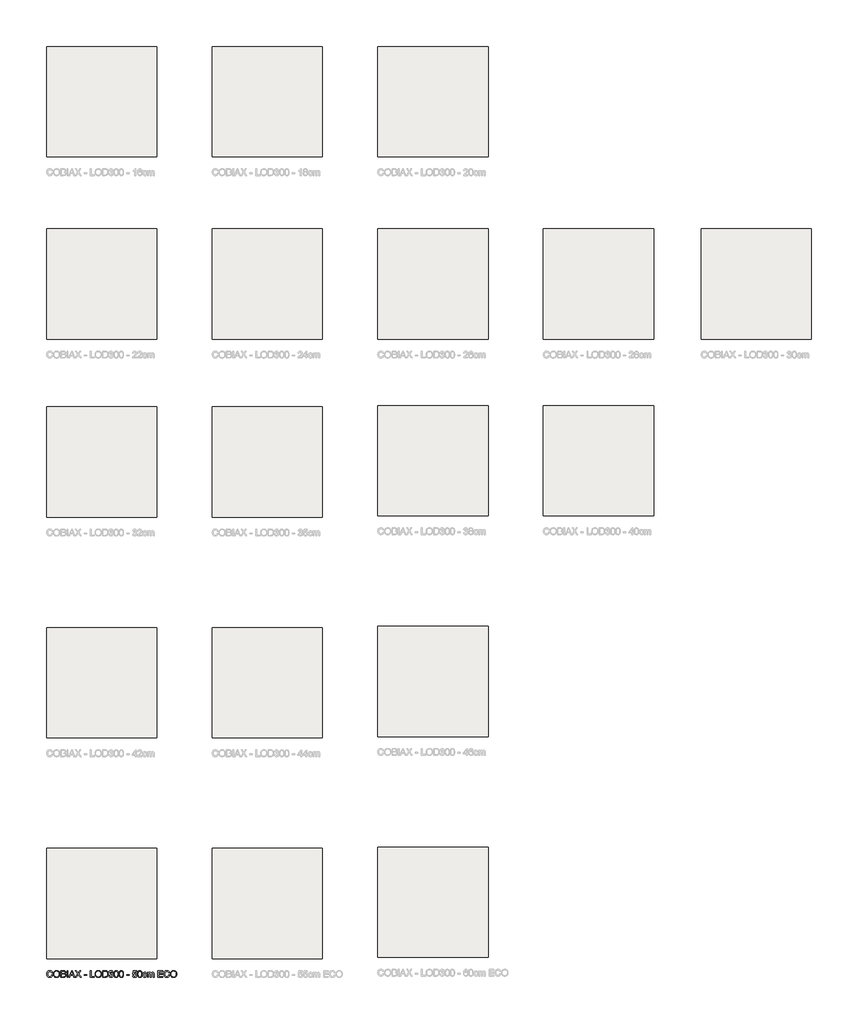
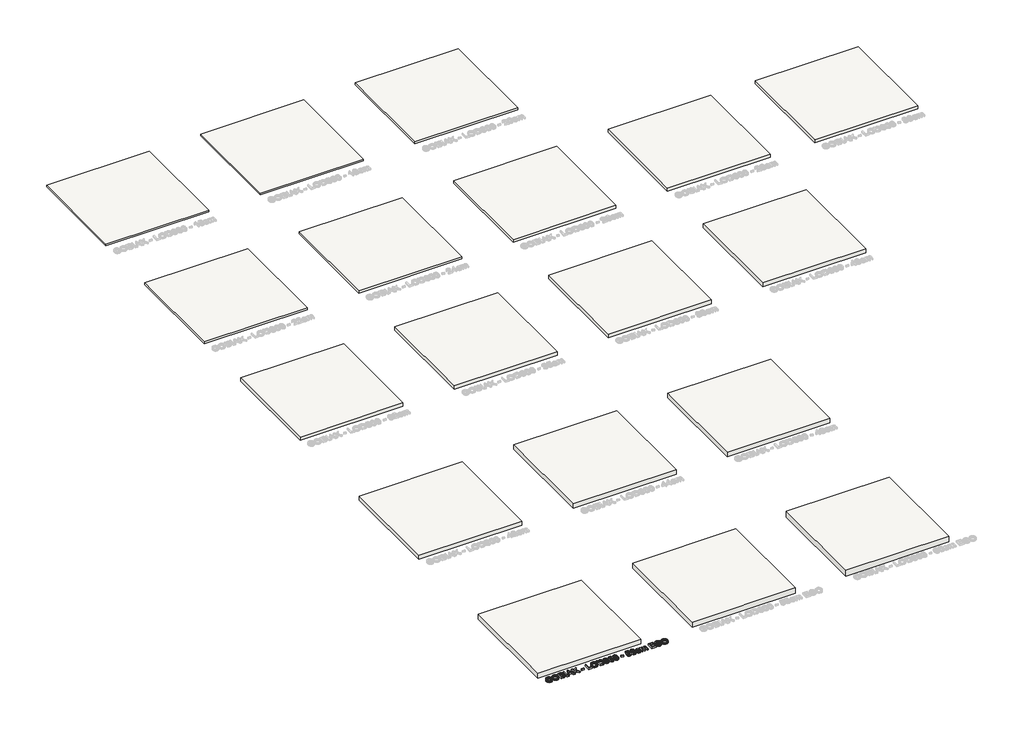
# One storey, part 1 of 18: 18 slabs, 1 proxy.
"""IFC4 building model written with IfcOpenShell, lengths in millimetres."""

from ifc_helpers import new_model, si_unit, frame, origin, origin_with_axes, place, context, project, spatial, polyline, outline, extrude, element, save

model = new_model("IFC4")

# Units and contexts
model_context = context("Model", 3, world=origin())
ifc_project = project(units=[si_unit("LENGTHUNIT", "METRE", prefix="MILLI")], contexts=[model_context])

# Site, building, storey
site = spatial("IfcSite", under=ifc_project)
building = spatial("IfcBuilding", under=site)
storey = spatial("IfcBuildingStorey", under=building, Name="COBIAX Slabs", Elevation=0.0)

# Proxy
placement = place(None, origin())
element("IfcBuildingElementProxy", 1, Name="600mm Arial", ObjectType="600mm Arial", at=placement, inside=storey, context=model_context, shape_type="SweptSolid", body=[
    extrude(outline(polyline([(-20201.7846047, -62740.3003464), (-20126.4423721, -62759.7245158), (-20141.35079, -62806.5788864), (-20161.2072206, -62847.5195539), (-20186.0116642, -62882.5465184), (-20215.7641205, -62911.6597798), (-20249.7932051, -62934.5466384), (-20287.4275332, -62950.8943946), (-20328.6671048, -62960.7030482), (-20373.5119201, -62963.9725995), (-20419.4557827, -62961.4985931), (-20460.902288, -62954.0765738), (-20497.8514359, -62941.7065417), (-20530.3032264, -62924.3884968), (-20558.7037164, -62902.3799564), (-20583.4989629, -62875.938438), (-20604.6889658, -62845.0639416), (-20622.2737252, -62809.7564671), (-20636.0830956, -62771.5427249), (-20645.9469316, -62731.9494251), (-20651.8652332, -62690.9765679), (-20653.8380004, -62648.6241532), (-20651.6077158, -62603.1815298), (-20644.916862, -62560.7371446), (-20633.765439, -62521.2909976), (-20618.1534469, -62484.843089), (-20598.4303734, -62451.9958253), (-20574.9457065, -62423.3516135), (-20547.6994462, -62398.9104534), (-20516.6915926, -62378.6723452), (-20482.9752077, -62362.8028356), (-20447.6033539, -62351.4674716), (-20410.5760311, -62344.6662532), (-20371.8932393, -62342.3991804), (-20328.8004621, -62345.3330393), (-20289.2853373, -62354.1346161), (-20253.3478649, -62368.8039106), (-20220.9880449, -62389.340923), (-20192.7393062, -62415.2030273), (-20169.1350776, -62445.8475975), (-20150.1753593, -62481.2746336), (-20135.8601512, -62521.4841357), (-20211.2023838, -62539.436777), (-20223.0665781, -62509.8084809), (-20237.3220054, -62484.4936011), (-20253.9686657, -62463.4921377), (-20273.006559, -62446.8040907), (-20294.5460498, -62434.0891692), (-20318.6975028, -62425.0070824), (-20345.4609179, -62419.5578304), (-20374.8362952, -62417.741413), (-20408.6354535, -62419.755567), (-20439.5467382, -62425.7980287), (-20467.5701492, -62435.8687984), (-20492.7056865, -62449.9678758), (-20514.6360519, -62467.4606647), (-20533.0439473, -62487.7125685), (-20547.9293725, -62510.7235873), (-20559.2923276, -62536.4937211), (-20573.6949077, -62591.6392322), (-20578.4957678, -62648.4770004), (-20572.8119909, -62718.0802739), (-20565.7072699, -62749.3502435), (-20555.7606605, -62778.2657683), (-20542.8112142, -62804.2520328), (-20526.6979829, -62826.7342212), (-20507.4209663, -62845.7123336), (-20484.9801646, -62861.18637), (-20460.4654281, -62873.1931186), (-20434.9666074, -62881.7693677), (-20408.4837022, -62886.9151171), (-20381.0167128, -62888.6303669), (-20348.2614196, -62886.2943162), (-20318.1272857, -62879.2861642), (-20290.614311, -62867.6059108), (-20265.7224955, -62851.2535562), (-20244.0404504, -62830.3026765), (-20226.1567869, -62804.8268484), (-20212.071505, -62774.8260717), (-20201.7846047, -62740.3003464)])), origin_with_axes(), (0.0, 0.0, 1.0), 150.0),
    extrude(outline(polyline([(-20051.1001395, -62661.1321411), (-20046.0785503, -62590.4344186), (-20031.0137825, -62527.8484942), (-20005.9058364, -62473.3743678), (-19989.5856714, -62449.1792288), (-19970.7547117, -62427.0120393), (-19927.6665331, -62389.9939136), (-19878.7474247, -62363.5523952), (-19823.9973868, -62347.6874841), (-19763.4164193, -62342.3991804), (-19722.8666263, -62344.8823839), (-19684.3585785, -62352.3319943), (-19647.8922757, -62364.7480116), (-19613.467718, -62382.1304359), (-19582.0505956, -62403.9550353), (-19554.6065988, -62429.6975779), (-19531.1357275, -62459.3580637), (-19511.6379818, -62492.9364929), (-19496.3156967, -62529.6695101), (-19485.3712073, -62568.7937603), (-19478.8045137, -62610.3092434), (-19476.6156158, -62654.2159595), (-19478.9194768, -62698.7020898), (-19485.8310598, -62740.778593), (-19497.3503648, -62780.4454691), (-19513.4773917, -62817.7027182), (-19533.8304631, -62851.5662559), (-19558.0279014, -62881.0519978), (-19586.0697064, -62906.1599439), (-19617.9558784, -62926.8900944), (-19652.4310198, -62943.1136904), (-19688.2397335, -62954.7019732), (-19725.3820195, -62961.6549429), (-19763.8578777, -62963.9725995), (-19805.1158434, -62961.4112211), (-19844.129729, -62953.7270859), (-19880.8995344, -62940.920194), (-19915.4252597, -62922.9905452), (-19946.8055939, -62900.632517), (-19974.1392261, -62874.5404865), (-19997.4261564, -62844.7144537), (-20016.6663847, -62811.1544187), (-20031.7311524, -62775.2077492), (-20042.4917008, -62738.2218131), (-20048.9480298, -62700.1966104), (-20051.1001395, -62661.1321411)]), holes=[polyline([(-19975.7579069, -62661.867905), (-19971.9917149, -62711.8170829), (-19960.6931392, -62756.1560604), (-19941.8621795, -62794.8848374), (-19915.4988361, -62828.0034141), (-19883.4517158, -62854.5277059), (-19847.5694257, -62873.4736287), (-19807.8519657, -62884.8411823), (-19764.299336, -62888.6303669), (-19720.0017453, -62884.8043941), (-19679.8152359, -62873.3264759), (-19643.7398077, -62854.1966121), (-19611.7754608, -62827.4148029), (-19585.6052554, -62793.5972505), (-19566.9122515, -62753.3601572), (-19555.6964492, -62706.7035232), (-19551.9578484, -62653.6273484), (-19553.5581351, -62619.1476084), (-19558.3589951, -62586.9303426), (-19566.3604285, -62556.9755512), (-19577.5624353, -62529.283234), (-19591.8408552, -62504.2166745), (-19609.0715282, -62482.1391563), (-19629.2544541, -62463.0506793), (-19652.3896331, -62446.9512435), (-19677.7596952, -62434.1719427), (-19704.6472705, -62425.0438706), (-19733.0523591, -62419.5670274), (-19762.9749609, -62417.741413), (-19805.0146759, -62421.2592846), (-19844.0193644, -62431.8128994), (-19879.9890265, -62449.4022573), (-19912.9236621, -62474.0273583), (-19940.4136442, -62506.874622), (-19960.0493457, -62549.1304676), (-19971.8307666, -62600.7948953), (-19975.7579069, -62661.867905)])]), origin_with_axes(), (0.0, 0.0, 1.0), 150.0),
    extrude(outline(polyline([(-19373.020046, -62954.5548204), (-19373.020046, -62351.8169595), (-19143.0202226, -62351.8169595), (-19079.7629135, -62356.2499375), (-19030.3747557, -62369.5488717), (-19010.2975958, -62379.6058457), (-18992.5196984, -62392.0448557), (-18977.0410634, -62406.8659016), (-18963.8616909, -62424.0689834), (-18945.8170791, -62461.7400997), (-18939.8022085, -62501.1770495), (-18944.8605859, -62537.4686084), (-18960.0357182, -62571.5896634), (-18985.43797, -62601.4432873), (-19021.1777058, -62624.9325527), (-18998.438, -62634.6262433), (-18978.4850002, -62647.2262016), (-18961.3187066, -62662.7324277), (-18946.9391192, -62681.1449216), (-18935.576164, -62701.9026632), (-18927.4597675, -62724.4446324), (-18922.5899296, -62748.7708294), (-18920.9666503, -62774.881254), (-18925.3996283, -62816.9117719), (-18938.6985625, -62855.8888693), (-18958.5457961, -62889.0350371), (-18982.6236727, -62913.5727661), (-19012.1094146, -62931.3414665), (-19048.1802442, -62944.1805481), (-19092.013384, -62951.9612523), (-19144.7860562, -62954.5548204), (-19373.020046, -62954.5548204)]), holes=[polyline([(-19297.6778134, -62596.6792155), (-19160.0899472, -62596.6792155), (-19111.9709822, -62595.0605347), (-19079.7445194, -62590.2044924), (-19051.6199409, -62579.0392738), (-19031.4048253, -62562.3190371), (-19019.2095371, -62540.3012997), (-19015.1444411, -62513.243579), (-19018.9336256, -62486.9768045), (-19030.3011793, -62464.0945444), (-19048.7320672, -62446.2338736), (-19073.7112547, -62435.0318668), (-19112.0445586, -62429.1273608), (-19170.5377958, -62427.1591921), (-19297.6778134, -62427.1591921), (-19297.6778134, -62596.6792155)]), polyline([(-19297.6778134, -62879.2125878), (-19143.1673754, -62879.2125878), (-19087.2493121, -62876.2695318), (-19061.2952374, -62869.7396264), (-19039.9396875, -62859.8619948), (-19022.5756574, -62845.7169321), (-19008.5961416, -62826.3847333), (-18999.3806976, -62802.729921), (-18996.3088829, -62775.617018), (-18999.9141265, -62744.1263192), (-19010.7298571, -62717.0502043), (-19029.6205976, -62695.8785955), (-19057.4508705, -62682.1014148), (-19096.8694263, -62674.5414398), (-19150.5250153, -62672.0214481), (-19297.6778134, -62672.0214481), (-19297.6778134, -62879.2125878)])]), origin_with_axes(), (0.0, 0.0, 1.0), 150.0),
    extrude(outline(polyline([(-18807.9533014, -62954.5548204), (-18807.9533014, -62351.8169595), (-18732.6110688, -62351.8169595), (-18732.6110688, -62954.5548204), (-18807.9533014, -62954.5548204)])), origin_with_axes(), (0.0, 0.0, 1.0), 150.0),
    extrude(outline(polyline([(-18652.1184882, -62954.5548204), (-18411.5236634, -62351.8169595), (-18347.3650434, -62351.8169595), (-18106.7702186, -62954.5548204), (-18186.3798823, -62954.5548204), (-18255.3945446, -62766.1992389), (-18503.641315, -62766.1992389), (-18572.5088245, -62954.5548204), (-18652.1184882, -62954.5548204)]), holes=[polyline([(-18475.9765889, -62690.8570063), (-18282.9121179, -62690.8570063), (-18337.2115004, -62542.6741386), (-18379.4443534, -62427.1591921), (-18416.9683169, -62529.7246924), (-18475.9765889, -62690.8570063)])]), origin_with_axes(), (0.0, 0.0, 1.0), 150.0),
    extrude(outline(polyline([(-18092.2020916, -62954.5548204), (-17859.8478234, -62626.1097751), (-18054.5309753, -62351.8169595), (-17964.1791572, -62351.8169595), (-17854.5503227, -62506.1802447), (-17828.3939128, -62545.2861008), (-17817.6149704, -62566.3657391), (-17774.3520477, -62505.1501751), (-17665.9004356, -62351.8169595), (-17574.2242424, -62351.8169595), (-17768.9073942, -62626.9926919), (-17536.5531261, -62954.5548204), (-17626.9049441, -62954.5548204), (-17781.7096876, -62736.1800681), (-17813.9361504, -62690.8570063), (-17849.3999748, -62740.594652), (-18000.5258984, -62954.5548204), (-18092.2020916, -62954.5548204)])), origin_with_axes(), (0.0, 0.0, 1.0), 150.0),
    extrude(outline(polyline([(-17272.8553119, -62775.617018), (-17272.8553119, -62700.2747853), (-17037.410835, -62700.2747853), (-17037.410835, -62775.617018), (-17272.8553119, -62775.617018)])), origin_with_axes(), (0.0, 0.0, 1.0), 150.0),
    extrude(outline(polyline([(-16707.7885673, -62954.5548204), (-16707.7885673, -62351.8169595), (-16632.4463347, -62351.8169595), (-16632.4463347, -62879.2125878), (-16331.0774043, -62879.2125878), (-16331.0774043, -62954.5548204), (-16707.7885673, -62954.5548204)])), origin_with_axes(), (0.0, 0.0, 1.0), 150.0),
    extrude(outline(polyline([(-16274.5707298, -62661.1321411), (-16269.5491406, -62590.4344186), (-16254.4843729, -62527.8484942), (-16229.3764267, -62473.3743678), (-16213.0562617, -62449.1792288), (-16194.2253021, -62427.0120393), (-16151.1371234, -62389.9939136), (-16102.2180151, -62363.5523952), (-16047.4679771, -62347.6874841), (-15986.8870096, -62342.3991804), (-15946.3372167, -62344.8823839), (-15907.8291688, -62352.3319943), (-15871.362866, -62364.7480116), (-15836.9383083, -62382.1304359), (-15805.5211859, -62403.9550353), (-15778.0771891, -62429.6975779), (-15754.6063178, -62459.3580637), (-15735.1085721, -62492.9364929), (-15719.786287, -62529.6695101), (-15708.8417976, -62568.7937603), (-15702.275104, -62610.3092434), (-15700.0862061, -62654.2159595), (-15702.3900671, -62698.7020898), (-15709.3016501, -62740.778593), (-15720.8209551, -62780.4454691), (-15736.947982, -62817.7027182), (-15757.3010534, -62851.5662559), (-15781.4984917, -62881.0519978), (-15809.5402967, -62906.1599439), (-15841.4264687, -62926.8900944), (-15875.9016102, -62943.1136904), (-15911.7103239, -62954.7019732), (-15948.8526098, -62961.6549429), (-15987.328468, -62963.9725995), (-16028.5864337, -62961.4112211), (-16067.6003193, -62953.7270859), (-16104.3701247, -62940.920194), (-16138.89585, -62922.9905452), (-16170.2761842, -62900.632517), (-16197.6098164, -62874.5404865), (-16220.8967467, -62844.7144537), (-16240.1369751, -62811.1544187), (-16255.2017428, -62775.2077492), (-16265.9622911, -62738.2218131), (-16272.4186201, -62700.1966104), (-16274.5707298, -62661.1321411)]), holes=[polyline([(-16199.2284972, -62661.867905), (-16195.4623053, -62711.8170829), (-16184.1637295, -62756.1560604), (-16165.3327699, -62794.8848374), (-16138.9694264, -62828.0034141), (-16106.9223061, -62854.5277059), (-16071.040016, -62873.4736287), (-16031.3225561, -62884.8411823), (-15987.7699264, -62888.6303669), (-15943.4723356, -62884.8043941), (-15903.2858262, -62873.3264759), (-15867.210398, -62854.1966121), (-15835.2460512, -62827.4148029), (-15809.0758457, -62793.5972505), (-15790.3828418, -62753.3601572), (-15779.1670395, -62706.7035232), (-15775.4284387, -62653.6273484), (-15777.0287254, -62619.1476084), (-15781.8295855, -62586.9303426), (-15789.8310189, -62556.9755512), (-15801.0330256, -62529.283234), (-15815.3114455, -62504.2166745), (-15832.5421185, -62482.1391563), (-15852.7250445, -62463.0506793), (-15875.8602234, -62446.9512435), (-15901.2302855, -62434.1719427), (-15928.1178608, -62425.0438706), (-15956.5229494, -62419.5670274), (-15986.4455512, -62417.741413), (-16028.4852662, -62421.2592846), (-16067.4899547, -62431.8128994), (-16103.4596168, -62449.4022573), (-16136.3942524, -62474.0273583), (-16163.8842345, -62506.874622), (-16183.519936, -62549.1304676), (-16195.3013569, -62600.7948953), (-16199.2284972, -62661.867905)])]), origin_with_axes(), (0.0, 0.0, 1.0), 150.0),
    extrude(outline(polyline([(-15596.4906363, -62954.5548204), (-15596.4906363, -62351.8169595), (-15388.5637326, -62351.8169595), (-15326.4284636, -62353.9874633), (-15280.9950372, -62360.4989746), (-15232.9496487, -62377.2376054), (-15192.4090528, -62403.6147444), (-15170.0694186, -62425.1726293), (-15150.7280227, -62449.5264174), (-15134.3848651, -62476.6761087), (-15121.0399457, -62506.6217031), (-15110.6748705, -62539.0872892), (-15103.2712454, -62573.7969554), (-15097.3483452, -62649.9485284), (-15101.358259, -62714.6405773), (-15113.3880002, -62771.570316), (-15131.7085236, -62820.0387689), (-15154.5907837, -62859.3469601), (-15180.9311345, -62890.3778063), (-15209.6259302, -62914.0142245), (-15242.5697628, -62931.5438016), (-15281.6572248, -62944.2541245), (-15326.9618925, -62951.9796464), (-15378.5573423, -62954.5548204), (-15596.4906363, -62954.5548204)]), holes=[polyline([(-15521.1484037, -62879.2125878), (-15387.8279686, -62879.2125878), (-15332.6824575, -62876.490261), (-15290.8542747, -62868.3232807), (-15259.2899995, -62855.1898935), (-15234.9362114, -62837.5683459), (-15208.7614075, -62804.9556071), (-15189.0981148, -62762.7411481), (-15176.7924621, -62710.7410281), (-15172.6905778, -62648.771306), (-15174.7001332, -62605.0301368), (-15180.7287994, -62566.6600447), (-15190.7765764, -62533.6610297), (-15204.8434642, -62506.0330919), (-15221.7890286, -62483.1508318), (-15240.4728355, -62464.38885), (-15260.8948847, -62449.7471466), (-15283.0551764, -62439.2257216), (-15326.3916754, -62430.1758245), (-15389.8881078, -62427.1591921), (-15521.1484037, -62427.1591921), (-15521.1484037, -62879.2125878)])]), origin_with_axes(), (0.0, 0.0, 1.0), 150.0),
    extrude(outline(polyline([(-15022.0061126, -62794.4525761), (-14946.66388, -62785.034797), (-14929.7964905, -62832.3812098), (-14918.4243384, -62850.2878659), (-14905.0932146, -62864.3501552), (-14889.4996165, -62874.9727478), (-14871.3400415, -62882.5603139), (-14850.6144896, -62887.1128536), (-14827.3229608, -62888.6303669), (-14800.0261167, -62886.5426365), (-14775.6723287, -62880.2794456), (-14754.2615965, -62869.840794), (-14735.7939204, -62855.2266817), (-14720.9222907, -62837.5315577), (-14710.2996981, -62817.849871), (-14703.9261425, -62796.1816215), (-14701.801624, -62772.5268092), (-14703.9077484, -62749.9986355), (-14710.2261217, -62729.5030099), (-14720.7567438, -62711.0399322), (-14735.4996148, -62694.6094026), (-14753.4890443, -62681.121929), (-14773.7593423, -62671.4880192), (-14796.3105086, -62665.7076734), (-14821.1425433, -62663.7808914), (-14844.9445083, -62665.8410306), (-14873.9703978, -62672.0214481), (-14865.5826883, -62596.6792155), (-14853.5161588, -62597.5621323), (-14808.377038, -62592.154267), (-14768.0203832, -62575.930671), (-14751.4105111, -62563.6618064), (-14739.5463167, -62548.4866741), (-14732.4278001, -62530.4052741), (-14730.0549612, -62509.4176062), (-14731.7748096, -62492.3800713), (-14736.9343546, -62476.8784438), (-14745.5335962, -62462.9127235), (-14757.5725345, -62450.4829106), (-14772.3246025, -62440.2787838), (-14789.0632333, -62432.9901217), (-14828.5001832, -62427.1591921), (-14849.1567572, -62428.6307201), (-14868.0107094, -62433.045304), (-14885.0620399, -62440.4029439), (-14900.3107486, -62450.7036398), (-14913.3797565, -62463.9473916), (-14923.8919845, -62480.1341994), (-14931.8474327, -62499.2640632), (-14937.2461009, -62521.3369829), (-15012.5883335, -62511.9192038), (-15003.6579981, -62475.9495417), (-14990.4050492, -62444.2657049), (-14972.8294869, -62416.8676933), (-14950.9313112, -62393.755507), (-14925.4003007, -62375.4073924), (-14896.9262343, -62362.3015964), (-14865.5091119, -62354.4381187), (-14831.1489335, -62351.8169595), (-14783.7841266, -62356.9857015), (-14740.2820807, -62372.4919276), (-14703.6042458, -62396.9560803), (-14676.7120719, -62428.9986021), (-14660.2125645, -62465.9155603), (-14654.7127286, -62505.0030223), (-14659.936653, -62541.4233398), (-14675.608426, -62574.459143), (-14701.5073184, -62602.6021156), (-14737.4126012, -62624.3439415), (-14712.304655, -62632.1982221), (-14690.2501294, -62643.4002289), (-14671.2490243, -62657.9499618), (-14655.3013398, -62675.8474209), (-14642.6829874, -62696.6511477), (-14633.6698785, -62719.9196839), (-14628.2620132, -62745.6530294), (-14626.4593914, -62773.8511844), (-14630.064635, -62812.0741237), (-14640.8803656, -62847.2804306), (-14658.9065834, -62879.4701052), (-14684.1432883, -62908.6431474), (-14714.889026, -62932.8497827), (-14749.4423424, -62950.1402365), (-14787.8032374, -62960.5145087), (-14829.9717111, -62963.9725995), (-14868.0842858, -62961.0203465), (-14902.8123462, -62952.1635874), (-14934.1558922, -62937.4023224), (-14962.1149238, -62916.7365513), (-14985.5582039, -62891.3802848), (-15003.3544955, -62862.5475334), (-15015.5037984, -62830.2382972), (-15022.0061126, -62794.4525761)])), origin_with_axes(), (0.0, 0.0, 1.0), 150.0),
    extrude(outline(polyline([(-14560.5349379, -62658.0419323), (-14554.9983138, -62561.5648791), (-14548.0775338, -62520.6518027), (-14538.3884418, -62484.6223598), (-14525.9724244, -62453.1822448), (-14510.8708685, -62426.037152), (-14493.0837741, -62403.1870816), (-14472.611141, -62384.6320335), (-14449.3839916, -62370.2754386), (-14423.3333478, -62360.020728), (-14394.4592097, -62353.8679016), (-14362.7615773, -62351.8169595), (-14316.3348695, -62356.6730018), (-14274.764204, -62371.2411289), (-14239.9993555, -62394.9511234), (-14213.9900984, -62427.2327685), (-14194.3451999, -62467.8101526), (-14178.6734269, -62516.4073642), (-14168.4095192, -62578.1195688), (-14164.9882167, -62658.0419323), (-14170.4696584, -62753.9671625), (-14177.3214605, -62794.7422832), (-14186.9139836, -62830.7257408), (-14199.2334319, -62862.1796514), (-14214.2660099, -62889.3661309), (-14232.0117177, -62912.2851792), (-14252.4705551, -62930.9367963), (-14275.7252957, -62945.3899602), (-14301.858713, -62955.7136487), (-14330.8708068, -62961.9078618), (-14362.7615773, -62963.9725995), (-14404.2586663, -62960.38575), (-14441.0468658, -62949.6252017), (-14473.1261758, -62931.6909544), (-14500.4965963, -62906.5830082), (-14526.7633707, -62861.1955671), (-14545.5253525, -62804.6429074), (-14556.7825415, -62736.9250291), (-14560.5349379, -62658.0419323)]), holes=[polyline([(-14485.1927053, -62657.8947795), (-14482.9854133, -62723.3915702), (-14476.3635374, -62776.4079642), (-14465.3270775, -62816.9439616), (-14449.8760337, -62844.9995622), (-14431.1876284, -62864.0880393), (-14410.4390838, -62877.7226657), (-14387.6304001, -62885.9034416), (-14362.7615773, -62888.6303669), (-14337.8927544, -62885.8942445), (-14315.0840707, -62877.6858775), (-14294.3355262, -62864.0052658), (-14275.6471208, -62844.8524094), (-14260.196077, -62816.7508235), (-14249.1596172, -62776.2240232), (-14242.5377412, -62723.2720086), (-14240.3304493, -62657.8947795), (-14242.4641648, -62594.1316327), (-14248.8653116, -62542.0487392), (-14259.5338894, -62501.6460991), (-14274.4698984, -62472.9237123), (-14292.8456041, -62452.9017347), (-14313.8332719, -62438.6003222), (-14337.4329019, -62430.0194746), (-14363.6444941, -62427.1591921), (-14388.3845582, -62429.6791838), (-14410.8069658, -62437.2391588), (-14430.9117169, -62449.8391171), (-14448.6988113, -62467.4790588), (-14464.6648899, -62498.7490284), (-14476.0692318, -62540.908305), (-14482.9118369, -62593.9568887), (-14485.1927053, -62657.8947795)])]), origin_with_axes(), (0.0, 0.0, 1.0), 150.0),
    extrude(outline(polyline([(-14099.0637631, -62658.0419323), (-14093.5271391, -62561.5648791), (-14086.6063591, -62520.6518027), (-14076.917267, -62484.6223598), (-14064.5012497, -62453.1822448), (-14049.3996938, -62426.037152), (-14031.6125993, -62403.1870816), (-14011.1399663, -62384.6320335), (-13987.9128168, -62370.2754386), (-13961.862173, -62360.020728), (-13932.9880349, -62353.8679016), (-13901.2904025, -62351.8169595), (-13854.8636947, -62356.6730018), (-13813.2930293, -62371.2411289), (-13778.5281807, -62394.9511234), (-13752.5189237, -62427.2327685), (-13732.8740251, -62467.8101526), (-13717.2022521, -62516.4073642), (-13706.9383445, -62578.1195688), (-13703.5170419, -62658.0419323), (-13708.9984836, -62753.9671625), (-13715.8502858, -62794.7422832), (-13725.4428088, -62830.7257408), (-13737.7622571, -62862.1796514), (-13752.7948352, -62889.3661309), (-13770.5405429, -62912.2851792), (-13790.9993804, -62930.9367963), (-13814.254121, -62945.3899602), (-13840.3875382, -62955.7136487), (-13869.3996321, -62961.9078618), (-13901.2904025, -62963.9725995), (-13942.7874916, -62960.38575), (-13979.5756911, -62949.6252017), (-14011.6550011, -62931.6909544), (-14039.0254215, -62906.5830082), (-14065.292196, -62861.1955671), (-14084.0541777, -62804.6429074), (-14095.3113668, -62736.9250291), (-14099.0637631, -62658.0419323)]), holes=[polyline([(-14023.7215305, -62657.8947795), (-14021.5142385, -62723.3915702), (-14014.8923626, -62776.4079642), (-14003.8559028, -62816.9439616), (-13988.404859, -62844.9995622), (-13969.7164536, -62864.0880393), (-13948.9679091, -62877.7226657), (-13926.1592254, -62885.9034416), (-13901.2904025, -62888.6303669), (-13876.4215796, -62885.8942445), (-13853.6128959, -62877.6858775), (-13832.8643514, -62864.0052658), (-13814.1759461, -62844.8524094), (-13798.7249023, -62816.7508235), (-13787.6884424, -62776.2240232), (-13781.0665665, -62723.2720086), (-13778.8592745, -62657.8947795), (-13780.9929901, -62594.1316327), (-13787.3941368, -62542.0487392), (-13798.0627147, -62501.6460991), (-13812.9987237, -62472.9237123), (-13831.3744293, -62452.9017347), (-13852.3620972, -62438.6003222), (-13875.9617271, -62430.0194746), (-13902.1733193, -62427.1591921), (-13926.9133835, -62429.6791838), (-13949.3357911, -62437.2391588), (-13969.4405421, -62449.8391171), (-13987.2276366, -62467.4790588), (-14003.1937152, -62498.7490284), (-14014.598057, -62540.908305), (-14021.4406621, -62593.9568887), (-14023.7215305, -62657.8947795)])]), origin_with_axes(), (0.0, 0.0, 1.0), 150.0),
    extrude(outline(polyline([(-13420.9836696, -62775.617018), (-13420.9836696, -62700.2747853), (-13185.5391927, -62700.2747853), (-13185.5391927, -62775.617018), (-13420.9836696, -62775.617018)])), origin_with_axes(), (0.0, 0.0, 1.0), 150.0),
    extrude(outline(polyline([(-12884.1702622, -62794.4525761), (-12808.8280296, -62785.034797), (-12803.1994351, -62809.2552279), (-12794.9956666, -62830.2658883), (-12784.2167242, -62848.0667784), (-12770.8626077, -62862.657898), (-12754.9609085, -62874.0208531), (-12736.5392176, -62882.1372497), (-12715.597535, -62887.0070876), (-12692.1358608, -62888.6303669), (-12663.4410651, -62886.3724911), (-12638.1307839, -62879.5988639), (-12616.205017, -62868.3094852), (-12597.6637644, -62852.5043549), (-12582.9208934, -62832.9652225), (-12572.3902713, -62810.473837), (-12566.0718981, -62785.0301985), (-12563.9657736, -62756.634307), (-12565.9385408, -62729.7973155), (-12571.8568424, -62705.9401681), (-12581.7206784, -62685.0628648), (-12595.5300488, -62667.1654058), (-12613.3309389, -62652.8088109), (-12635.1693338, -62642.5541003), (-12661.0452336, -62636.4012739), (-12690.9586384, -62634.3503318), (-12727.5077146, -62637.6244816), (-12757.1038211, -62647.4469308), (-12780.7402393, -62662.4933044), (-12799.4102506, -62681.4392272), (-12874.7524832, -62672.0214481), (-12808.8280296, -62361.2347386), (-12516.8768783, -62361.2347386), (-12516.8768783, -62436.5769712), (-12747.9067712, -62436.5769712), (-12780.133234, -62602.5653274), (-12753.5445628, -62583.5090401), (-12726.3120981, -62569.8974062), (-12698.4358399, -62561.730426), (-12669.9157883, -62559.0080992), (-12633.2241578, -62562.3834165), (-12599.5215685, -62572.5093684), (-12568.8080204, -62589.3859549), (-12541.0835135, -62613.0131761), (-12518.1322756, -62641.947095), (-12501.7385342, -62674.7437749), (-12491.9022893, -62711.4032157), (-12488.623541, -62751.9254175), (-12491.575794, -62790.9576972), (-12500.4325531, -62827.2676501), (-12515.1938181, -62860.8552762), (-12535.8595892, -62891.7205756), (-12567.166347, -62923.3308361), (-12603.6970291, -62945.9095935), (-12645.4516356, -62959.456848), (-12692.4301664, -62963.9725995), (-12731.3106947, -62961.0709302), (-12766.4296297, -62952.3659225), (-12797.7869713, -62937.8575763), (-12825.3827194, -62917.5458917), (-12848.3431544, -62892.442544), (-12865.7945566, -62863.5592089), (-12877.7369259, -62830.8958863), (-12884.1702622, -62794.4525761)])), origin_with_axes(), (0.0, 0.0, 1.0), 150.0),
    extrude(outline(polyline([(-12422.6990875, -62658.0419323), (-12417.1624635, -62561.5648791), (-12410.2416834, -62520.6518027), (-12400.5525914, -62484.6223598), (-12388.1365741, -62453.1822448), (-12373.0350182, -62426.037152), (-12355.2479237, -62403.1870816), (-12334.7752907, -62384.6320335), (-12311.5481412, -62370.2754386), (-12285.4974974, -62360.020728), (-12256.6233593, -62353.8679016), (-12224.9257269, -62351.8169595), (-12178.4990191, -62356.6730018), (-12136.9283536, -62371.2411289), (-12102.1635051, -62394.9511234), (-12076.154248, -62427.2327685), (-12056.5093495, -62467.8101526), (-12040.8375765, -62516.4073642), (-12030.5736688, -62578.1195688), (-12027.1523663, -62658.0419323), (-12032.633808, -62753.9671625), (-12039.4856102, -62794.7422832), (-12049.0781332, -62830.7257408), (-12061.3975815, -62862.1796514), (-12076.4301595, -62889.3661309), (-12094.1758673, -62912.2851792), (-12114.6347047, -62930.9367963), (-12137.8894454, -62945.3899602), (-12164.0228626, -62955.7136487), (-12193.0349564, -62961.9078618), (-12224.9257269, -62963.9725995), (-12266.4228159, -62960.38575), (-12303.2110155, -62949.6252017), (-12335.2903254, -62931.6909544), (-12362.6607459, -62906.5830082), (-12388.9275203, -62861.1955671), (-12407.6895021, -62804.6429074), (-12418.9466911, -62736.9250291), (-12422.6990875, -62658.0419323)]), holes=[polyline([(-12347.3568549, -62657.8947795), (-12345.1495629, -62723.3915702), (-12338.527687, -62776.4079642), (-12327.4912271, -62816.9439616), (-12312.0401834, -62844.9995622), (-12293.351778, -62864.0880393), (-12272.6032335, -62877.7226657), (-12249.7945498, -62885.9034416), (-12224.9257269, -62888.6303669), (-12200.056904, -62885.8942445), (-12177.2482203, -62877.6858775), (-12156.4996758, -62864.0052658), (-12137.8112704, -62844.8524094), (-12122.3602266, -62816.7508235), (-12111.3237668, -62776.2240232), (-12104.7018909, -62723.2720086), (-12102.4945989, -62657.8947795), (-12104.6283145, -62594.1316327), (-12111.0294612, -62542.0487392), (-12121.698039, -62501.6460991), (-12136.6340481, -62472.9237123), (-12155.0097537, -62452.9017347), (-12175.9974215, -62438.6003222), (-12199.5970515, -62430.0194746), (-12225.8086437, -62427.1591921), (-12250.5487079, -62429.6791838), (-12272.9711155, -62437.2391588), (-12293.0758665, -62449.8391171), (-12310.862961, -62467.4790588), (-12326.8290396, -62498.7490284), (-12338.2333814, -62540.908305), (-12345.0759865, -62593.9568887), (-12347.3568549, -62657.8947795)])]), origin_with_axes(), (0.0, 0.0, 1.0), 150.0),
    extrude(outline(polyline([(-11659.8589823, -62794.4525761), (-11584.5167497, -62803.8703552), (-11592.7113211, -62839.4215515), (-11605.5228116, -62870.8800606), (-11622.9512211, -62898.2458825), (-11644.9965497, -62921.5190172), (-11670.7298953, -62940.0924595), (-11699.2223558, -62953.3592039), (-11730.4739313, -62961.3192506), (-11764.4846217, -62963.9725995), (-11806.7404674, -62960.2707869), (-11844.6277144, -62949.1653492), (-11878.1463627, -62930.6562863), (-11907.2964123, -62904.7435983), (-11930.8914437, -62871.9147287), (-11947.7450376, -62832.6571213), (-11957.857194, -62786.970776), (-11961.2279127, -62734.8556929), (-11955.4705595, -62667.8091993), (-11948.273868, -62637.6382771), (-11938.1984999, -62609.7022381), (-11925.1754772, -62584.5621023), (-11909.1358222, -62562.7788896), (-11890.0795349, -62544.3526002), (-11868.0066152, -62529.283234), (-11843.914943, -62517.5661924), (-11818.8023983, -62509.196877), (-11792.6689811, -62504.1752878), (-11765.5146913, -62502.5014247), (-11732.0880135, -62504.8006872), (-11701.8527121, -62511.6984746), (-11674.8087869, -62523.194787), (-11650.956238, -62539.2896243), (-11630.6997357, -62559.6151045), (-11614.44395, -62583.8033457), (-11602.188881, -62611.8543478), (-11593.9345288, -62643.7681109), (-11669.2767614, -62653.18589), (-11682.9435775, -62620.3156337), (-11704.2255509, -62596.7527919), (-11731.9454593, -62582.570941), (-11764.9260801, -62577.8436573), (-11790.5260685, -62580.170511), (-11813.6152622, -62587.1510718), (-11834.1936613, -62598.7853399), (-11852.2612658, -62615.0733153), (-11866.9719471, -62636.3920769), (-11877.4795765, -62663.1187038), (-11883.7841542, -62695.2531961), (-11885.8856801, -62732.7955537), (-11883.8301395, -62770.9035299), (-11877.6635175, -62803.4105027), (-11867.3858143, -62830.3164721), (-11852.9970298, -62851.6214382), (-11835.2881102, -62867.8128445), (-11815.050002, -62879.3781347), (-11792.282705, -62886.3173088), (-11766.9862193, -62888.6303669), (-11727.9723337, -62882.8546195), (-11711.1003457, -62875.6349354), (-11695.9849942, -62865.5273776), (-11683.0493436, -62852.4215815), (-11672.716458, -62836.2071826), (-11664.9863376, -62816.8841808), (-11659.8589823, -62794.4525761)])), origin_with_axes(), (0.0, 0.0, 1.0), 150.0),
    extrude(outline(polyline([(-11518.5922962, -62954.5548204), (-11518.5922962, -62511.9192038), (-11443.2500635, -62511.9192038), (-11443.2500635, -62584.7598389), (-11420.5885326, -62551.3009714), (-11391.4522786, -62525.0893792), (-11356.8345829, -62508.1484134), (-11317.7287268, -62502.5014247), (-11275.8269675, -62508.258778), (-11257.9938878, -62515.4554695), (-11242.2393414, -62525.5308376), (-11217.1497893, -62553.1771696), (-11200.7422523, -62590.0573396), (-11173.2798614, -62551.7516268), (-11141.9547095, -62524.3904034), (-11106.7667967, -62507.9736694), (-11067.7161229, -62502.5014247), (-11037.5543978, -62504.7776946), (-11011.0806897, -62511.6065041), (-10988.2949986, -62522.9878533), (-10969.1973246, -62538.9217423), (-10954.1003672, -62559.5921119), (-10943.3168262, -62585.1829031), (-10936.8467016, -62615.6941161), (-10934.6899934, -62651.1257508), (-10934.6899934, -62954.5548204), (-11010.032226, -62954.5548204), (-11010.032226, -62683.4993664), (-11011.7796655, -62645.9202206), (-11017.0219839, -62620.5915452), (-11026.8444332, -62603.2459091), (-11042.3322652, -62589.6158812), (-11062.2530752, -62580.7867133), (-11085.3744586, -62577.8436573), (-11106.7254099, -62579.7290526), (-11126.190966, -62585.3852382), (-11143.7711268, -62594.8122144), (-11159.4658925, -62608.0099809), (-11172.373952, -62625.3648141), (-11181.5939945, -62647.2629898), (-11187.12602, -62673.7045082), (-11188.9700285, -62704.6893693), (-11188.9700285, -62954.5548204), (-11264.3122611, -62954.5548204), (-11264.3122611, -62675.1116569), (-11268.6716627, -62632.5109218), (-11274.1209148, -62615.7906851), (-11281.7498677, -62602.123869), (-11291.862024, -62591.5012764), (-11304.7608865, -62583.9137103), (-11320.446455, -62579.3611706), (-11338.9187297, -62577.8436573), (-11367.9446191, -62581.8903593), (-11394.6896402, -62594.0304651), (-11416.7625599, -62613.9696693), (-11431.7721453, -62641.4136661), (-11440.380584, -62679.4894526), (-11443.2500635, -62731.3240257), (-11443.2500635, -62954.5548204), (-11518.5922962, -62954.5548204)])), origin_with_axes(), (0.0, 0.0, 1.0), 150.0),
    extrude(outline(polyline([(-10576.8143885, -62954.5548204), (-10576.8143885, -62351.8169595), (-10143.596551, -62351.8169595), (-10143.596551, -62427.1591921), (-10501.4721559, -62427.1591921), (-10501.4721559, -62606.0969946), (-10162.4321091, -62606.0969946), (-10162.4321091, -62681.4392272), (-10501.4721559, -62681.4392272), (-10501.4721559, -62879.2125878), (-10134.1787719, -62879.2125878), (-10134.1787719, -62954.5548204), (-10576.8143885, -62954.5548204)])), origin_with_axes(), (0.0, 0.0, 1.0), 150.0),
    extrude(outline(polyline([(-9597.3653645, -62740.3003464), (-9522.0231319, -62759.7245158), (-9536.9315498, -62806.5788864), (-9556.7879805, -62847.5195539), (-9581.592424, -62882.5465184), (-9611.3448804, -62911.6597798), (-9645.3739649, -62934.5466384), (-9683.008293, -62950.8943946), (-9724.2478647, -62960.7030482), (-9769.0926799, -62963.9725995), (-9815.0365426, -62961.4985931), (-9856.4830478, -62954.0765738), (-9893.4321957, -62941.7065417), (-9925.8839862, -62924.3884968), (-9954.2844763, -62902.3799564), (-9979.0797227, -62875.938438), (-10000.2697257, -62845.0639416), (-10017.854485, -62809.7564671), (-10031.6638554, -62771.5427249), (-10041.5276914, -62731.9494251), (-10047.445993, -62690.9765679), (-10049.4187602, -62648.6241532), (-10047.1884756, -62603.1815298), (-10040.4976218, -62560.7371446), (-10029.3461989, -62521.2909976), (-10013.7342067, -62484.843089), (-9994.0111332, -62451.9958253), (-9970.5264663, -62423.3516135), (-9943.2802061, -62398.9104534), (-9912.2723524, -62378.6723452), (-9878.5559676, -62362.8028356), (-9843.1841137, -62351.4674716), (-9806.1567909, -62344.6662532), (-9767.4739991, -62342.3991804), (-9724.3812219, -62345.3330393), (-9684.8660971, -62354.1346161), (-9648.9286247, -62368.8039106), (-9616.5688047, -62389.340923), (-9588.320066, -62415.2030273), (-9564.7158375, -62445.8475975), (-9545.7561191, -62481.2746336), (-9531.440911, -62521.4841357), (-9606.7831436, -62539.436777), (-9618.647338, -62509.8084809), (-9632.9027653, -62484.4936011), (-9649.5494256, -62463.4921377), (-9668.5873188, -62446.8040907), (-9690.1268096, -62434.0891692), (-9714.2782626, -62425.0070824), (-9741.0416778, -62419.5578304), (-9770.4170551, -62417.741413), (-9804.2162134, -62419.755567), (-9835.127498, -62425.7980287), (-9863.150909, -62435.8687984), (-9888.2864463, -62449.9678758), (-9910.2168118, -62467.4606647), (-9928.6247071, -62487.7125685), (-9943.5101323, -62510.7235873), (-9954.8730875, -62536.4937211), (-9969.2756676, -62591.6392322), (-9974.0765276, -62648.4770004), (-9968.3927508, -62718.0802739), (-9961.2880297, -62749.3502435), (-9951.3414203, -62778.2657683), (-9938.3919741, -62804.2520328), (-9922.2787427, -62826.7342212), (-9903.0017261, -62845.7123336), (-9880.5609244, -62861.18637), (-9856.046188, -62873.1931186), (-9830.5473672, -62881.7693677), (-9804.0644621, -62886.9151171), (-9776.5974726, -62888.6303669), (-9743.8421794, -62886.2943162), (-9713.7080455, -62879.2861642), (-9686.1950708, -62867.6059108), (-9661.3032553, -62851.2535562), (-9639.6212102, -62830.3026765), (-9621.7375467, -62804.8268484), (-9607.6522648, -62774.8260717), (-9597.3653645, -62740.3003464)])), origin_with_axes(), (0.0, 0.0, 1.0), 150.0),
    extrude(outline(polyline([(-9446.6808993, -62661.1321411), (-9441.6593101, -62590.4344186), (-9426.5945424, -62527.8484942), (-9401.4865962, -62473.3743678), (-9385.1664312, -62449.1792288), (-9366.3354716, -62427.0120393), (-9323.2472929, -62389.9939136), (-9274.3281846, -62363.5523952), (-9219.5781466, -62347.6874841), (-9158.9971791, -62342.3991804), (-9118.4473862, -62344.8823839), (-9079.9393383, -62352.3319943), (-9043.4730356, -62364.7480116), (-9009.0484779, -62382.1304359), (-8977.6313555, -62403.9550353), (-8950.1873586, -62429.6975779), (-8926.7164873, -62459.3580637), (-8907.2187416, -62492.9364929), (-8891.8964565, -62529.6695101), (-8880.9519671, -62568.7937603), (-8874.3852735, -62610.3092434), (-8872.1963756, -62654.2159595), (-8874.5002366, -62698.7020898), (-8881.4118196, -62740.778593), (-8892.9311246, -62780.4454691), (-8909.0581516, -62817.7027182), (-8929.4112229, -62851.5662559), (-8953.6086612, -62881.0519978), (-8981.6504663, -62906.1599439), (-9013.5366382, -62926.8900944), (-9048.0117797, -62943.1136904), (-9083.8204934, -62954.7019732), (-9120.9627793, -62961.6549429), (-9159.4386375, -62963.9725995), (-9200.6966032, -62961.4112211), (-9239.7104888, -62953.7270859), (-9276.4802942, -62940.920194), (-9311.0060195, -62922.9905452), (-9342.3863537, -62900.632517), (-9369.7199859, -62874.5404865), (-9393.0069162, -62844.7144537), (-9412.2471446, -62811.1544187), (-9427.3119123, -62775.2077492), (-9438.0724606, -62738.2218131), (-9444.5287896, -62700.1966104), (-9446.6808993, -62661.1321411)]), holes=[polyline([(-9371.3386667, -62661.867905), (-9367.5724748, -62711.8170829), (-9356.273899, -62756.1560604), (-9337.4429394, -62794.8848374), (-9311.0795959, -62828.0034141), (-9279.0324756, -62854.5277059), (-9243.1501855, -62873.4736287), (-9203.4327256, -62884.8411823), (-9159.8800959, -62888.6303669), (-9115.5825051, -62884.8043941), (-9075.3959957, -62873.3264759), (-9039.3205675, -62854.1966121), (-9007.3562207, -62827.4148029), (-8981.1860152, -62793.5972505), (-8962.4930114, -62753.3601572), (-8951.277209, -62706.7035232), (-8947.5386083, -62653.6273484), (-8949.1388949, -62619.1476084), (-8953.939755, -62586.9303426), (-8961.9411884, -62556.9755512), (-8973.1431951, -62529.283234), (-8987.4216151, -62504.2166745), (-9004.652288, -62482.1391563), (-9024.835214, -62463.0506793), (-9047.9703929, -62446.9512435), (-9073.340455, -62434.1719427), (-9100.2280304, -62425.0438706), (-9128.6331189, -62419.5670274), (-9158.5557207, -62417.741413), (-9200.5954357, -62421.2592846), (-9239.6001242, -62431.8128994), (-9275.5697863, -62449.4022573), (-9308.5044219, -62474.0273583), (-9335.994404, -62506.874622), (-9355.6301055, -62549.1304676), (-9367.4115264, -62600.7948953), (-9371.3386667, -62661.867905)])]), origin_with_axes(), (0.0, 0.0, 1.0), 150.0),
])

# Slabs
element("IfcSlab", 2, ObjectType="Cobiax_LOD300_H22", at=placement, inside=storey, context=model_context, shape_type="SweptSolid", body=[
    extrude(outline(polyline([(-10673.2731895, 4850.2779373), (-10673.2731895, -5149.7220627), (-20673.2731895, -5149.7220627), (-20673.2731895, 4850.2779373), (-10673.2731895, 4850.2779373)])), frame((0.0, 0.0, -220.0), z_axis=(0.0, 0.0, 1.0), x_axis=(1.0, 0.0, 0.0)), (0.0, 0.0, 1.0), 220.0),
])
element("IfcSlab", 3, ObjectType="Cobiax_LOD300_H24", at=placement, inside=storey, context=model_context, shape_type="SweptSolid", body=[
    extrude(outline(polyline([(4326.7268105, 4850.2779373), (4326.7268105, -5149.7220627), (-5673.2731895, -5149.7220627), (-5673.2731895, 4850.2779373), (4326.7268105, 4850.2779373)])), frame((0.0, 0.0, -240.0), z_axis=(0.0, 0.0, 1.0), x_axis=(1.0, 0.0, 0.0)), (0.0, 0.0, 1.0), 240.0),
])
element("IfcSlab", 4, ObjectType="Cobiax_LOD300_H26", at=placement, inside=storey, context=model_context, shape_type="SweptSolid", body=[
    extrude(outline(polyline([(19326.7268105, 4850.2779373), (19326.7268105, -5149.7220627), (9326.7268105, -5149.7220627), (9326.7268105, 4850.2779373), (19326.7268105, 4850.2779373)])), frame((0.0, 0.0, -260.0), z_axis=(0.0, 0.0, 1.0), x_axis=(1.0, 0.0, 0.0)), (0.0, 0.0, 1.0), 260.0),
])
element("IfcSlab", 5, ObjectType="Cobiax_LOD300_H28", at=placement, inside=storey, context=model_context, shape_type="SweptSolid", body=[
    extrude(outline(polyline([(34326.7268105, 4850.2779373), (34326.7268105, -5149.7220627), (24326.7268105, -5149.7220627), (24326.7268105, 4850.2779373), (34326.7268105, 4850.2779373)])), frame((0.0, 0.0, -280.0), z_axis=(0.0, 0.0, 1.0), x_axis=(1.0, 0.0, 0.0)), (0.0, 0.0, 1.0), 280.0),
])
element("IfcSlab", 6, ObjectType="Cobiax_LOD300_H32", at=placement, inside=storey, context=model_context, shape_type="SweptSolid", body=[
    extrude(outline(polyline([(-10673.2731895, -11269.1096366), (-10673.2731895, -21269.1096366), (-20673.2731895, -21269.1096366), (-20673.2731895, -11269.1096366), (-10673.2731895, -11269.1096366)])), frame((0.0, 0.0, -320.0), z_axis=(0.0, 0.0, 1.0), x_axis=(1.0, 0.0, 0.0)), (0.0, 0.0, 1.0), 320.0),
])
element("IfcSlab", 7, ObjectType="Cobiax_LOD300_H35", at=placement, inside=storey, context=model_context, shape_type="SweptSolid", body=[
    extrude(outline(polyline([(4326.7268105, -11269.1096366), (4326.7268105, -21269.1096366), (-5673.2731895, -21269.1096366), (-5673.2731895, -11269.1096366), (4326.7268105, -11269.1096366)])), frame((0.0, 0.0, -350.0), z_axis=(0.0, 0.0, 1.0), x_axis=(1.0, 0.0, 0.0)), (0.0, 0.0, 1.0), 350.0),
])
element("IfcSlab", 8, ObjectType="Cobiax_LOD300_H38", at=placement, inside=storey, context=model_context, shape_type="SweptSolid", body=[
    extrude(outline(polyline([(19326.7268105, -11149.7220627), (19326.7268105, -21149.7220627), (9326.7268105, -21149.7220627), (9326.7268105, -11149.7220627), (19326.7268105, -11149.7220627)])), frame((0.0, 0.0, -380.0), z_axis=(0.0, 0.0, 1.0), x_axis=(1.0, 0.0, 0.0)), (0.0, 0.0, 1.0), 380.0),
])
element("IfcSlab", 9, ObjectType="Cobiax_LOD300_H40", at=placement, inside=storey, context=model_context, shape_type="SweptSolid", body=[
    extrude(outline(polyline([(34326.7268105, -11149.7220627), (34326.7268105, -21149.7220627), (24326.7268105, -21149.7220627), (24326.7268105, -11149.7220627), (34326.7268105, -11149.7220627)])), frame((0.0, 0.0, -400.0), z_axis=(0.0, 0.0, 1.0), x_axis=(1.0, 0.0, 0.0)), (0.0, 0.0, 1.0), 400.0),
])
element("IfcSlab", 10, ObjectType="Cobiax_LOD300_H42", at=placement, inside=storey, context=model_context, shape_type="SweptSolid", body=[
    extrude(outline(polyline([(-10673.2731895, -31269.1096366), (-10673.2731895, -41269.1096366), (-20673.2731895, -41269.1096366), (-20673.2731895, -31269.1096366), (-10673.2731895, -31269.1096366)])), frame((0.0, 0.0, -420.0), z_axis=(0.0, 0.0, 1.0), x_axis=(1.0, 0.0, 0.0)), (0.0, 0.0, 1.0), 420.0),
])
element("IfcSlab", 11, ObjectType="Cobiax_LOD300_H44", at=placement, inside=storey, context=model_context, shape_type="SweptSolid", body=[
    extrude(outline(polyline([(4326.7268105, -31269.1096366), (4326.7268105, -41269.1096366), (-5673.2731895, -41269.1096366), (-5673.2731895, -31269.1096366), (4326.7268105, -31269.1096366)])), frame((0.0, 0.0, -440.0), z_axis=(0.0, 0.0, 1.0), x_axis=(1.0, 0.0, 0.0)), (0.0, 0.0, 1.0), 440.0),
])
element("IfcSlab", 12, ObjectType="Cobiax_LOD300_H46", at=placement, inside=storey, context=model_context, shape_type="SweptSolid", body=[
    extrude(outline(polyline([(19326.7268105, -31149.7220627), (19326.7268105, -41149.7220627), (9326.7268105, -41149.7220627), (9326.7268105, -31149.7220627), (19326.7268105, -31149.7220627)])), frame((0.0, 0.0, -460.0), z_axis=(0.0, 0.0, 1.0), x_axis=(1.0, 0.0, 0.0)), (0.0, 0.0, 1.0), 460.0),
])
element("IfcSlab", 13, ObjectType="Cobiax_LOD300_H50_ECO", at=placement, inside=storey, context=model_context, shape_type="SweptSolid", body=[
    extrude(outline(polyline([(-10673.2731895, -51269.1096366), (-10673.2731895, -61269.1096366), (-20673.2731895, -61269.1096366), (-20673.2731895, -51269.1096366), (-10673.2731895, -51269.1096366)])), frame((0.0, 0.0, -500.0), z_axis=(0.0, 0.0, 1.0), x_axis=(1.0, 0.0, 0.0)), (0.0, 0.0, 1.0), 500.0),
])
element("IfcSlab", 14, ObjectType="Cobiax_LOD300_H55_ECO", at=placement, inside=storey, context=model_context, shape_type="SweptSolid", body=[
    extrude(outline(polyline([(4326.7268105, -51269.1096366), (4326.7268105, -61269.1096366), (-5673.2731895, -61269.1096366), (-5673.2731895, -51269.1096366), (4326.7268105, -51269.1096366)])), frame((0.0, 0.0, -550.0), z_axis=(0.0, 0.0, 1.0), x_axis=(1.0, 0.0, 0.0)), (0.0, 0.0, 1.0), 550.0),
])
element("IfcSlab", 15, ObjectType="Cobiax_LOD300_H60_ECO", at=placement, inside=storey, context=model_context, shape_type="SweptSolid", body=[
    extrude(outline(polyline([(19326.7268105, -51149.7220627), (19326.7268105, -61149.7220627), (9326.7268105, -61149.7220627), (9326.7268105, -51149.7220627), (19326.7268105, -51149.7220627)])), frame((0.0, 0.0, -600.0), z_axis=(0.0, 0.0, 1.0), x_axis=(1.0, 0.0, 0.0)), (0.0, 0.0, 1.0), 600.0),
])
element("IfcSlab", 16, ObjectType="Cobiax_LOD300_H30", at=placement, inside=storey, context=model_context, shape_type="SweptSolid", body=[
    extrude(outline(polyline([(48626.7268105, 4850.2779373), (48626.7268105, -5149.7220627), (38626.7268105, -5149.7220627), (38626.7268105, 4850.2779373), (48626.7268105, 4850.2779373)])), frame((0.0, 0.0, -300.0), z_axis=(0.0, 0.0, 1.0), x_axis=(1.0, 0.0, 0.0)), (0.0, 0.0, 1.0), 300.0),
])
element("IfcSlab", 17, ObjectType="Cobiax_LOD300_H16", at=placement, inside=storey, context=model_context, shape_type="SweptSolid", body=[
    extrude(outline(polyline([(-10673.2731895, 21376.4489289), (-10673.2731895, 11376.4489289), (-20673.2731895, 11376.4489289), (-20673.2731895, 21376.4489289), (-10673.2731895, 21376.4489289)])), frame((0.0, 0.0, -160.0), z_axis=(0.0, 0.0, 1.0), x_axis=(1.0, 0.0, 0.0)), (0.0, 0.0, 1.0), 160.0),
])
element("IfcSlab", 18, ObjectType="Cobiax_LOD300_H18", at=placement, inside=storey, context=model_context, shape_type="SweptSolid", body=[
    extrude(outline(polyline([(4326.7268105, 21376.4489289), (4326.7268105, 11376.4489289), (-5673.2731895, 11376.4489289), (-5673.2731895, 21376.4489289), (4326.7268105, 21376.4489289)])), frame((0.0, 0.0, -180.0), z_axis=(0.0, 0.0, 1.0), x_axis=(1.0, 0.0, 0.0)), (0.0, 0.0, 1.0), 180.0),
])
element("IfcSlab", 19, ObjectType="Cobiax_LOD300_H20", at=placement, inside=storey, context=model_context, shape_type="SweptSolid", body=[
    extrude(outline(polyline([(19326.7268105, 21376.4489289), (19326.7268105, 11376.4489289), (9326.7268105, 11376.4489289), (9326.7268105, 21376.4489289), (19326.7268105, 21376.4489289)])), frame((0.0, 0.0, -200.0), z_axis=(0.0, 0.0, 1.0), x_axis=(1.0, 0.0, 0.0)), (0.0, 0.0, 1.0), 200.0),
])

save(model, "model.ifc")
